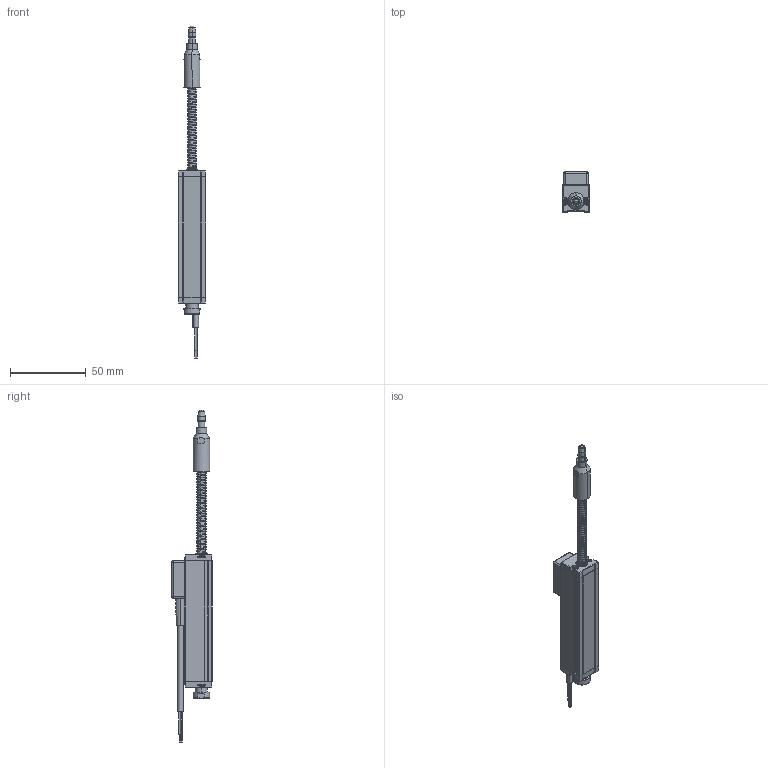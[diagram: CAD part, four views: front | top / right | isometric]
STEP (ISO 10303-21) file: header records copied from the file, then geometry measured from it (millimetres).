
FILE_DESCRIPTION(('FreeCAD Model'),'2;1');
FILE_NAME('O:/12-Produkte/12-10 PM/12-10-40 WEG/01_Produktinfo/SPR18/Zeichnungen & CAD-Daten/SPR18-50-K-.step','2017-03-10T10:58:04',('Author'),(''), 'Open CASCADE STEP processor 6.8','FreeCAD','Unknown');
FILE_SCHEMA(('AUTOMOTIVE_DESIGN_CC2 { 1 2 10303 214 -1 1 5 4 }'));
Length unit declared in the file: millimetre
Products named in the file (2): ASSEMBLY; Part23^SPR18_Stecker
Assembly tree (1 placements, depth 2):
  ASSEMBLY
    Part23^SPR18_Stecker
Bounding box: 18.02 x 26.51 x 219.58 mm (x, y, z)
Volume: 21188.8 mm3; surface area: 23007.3 mm2
Topology: 1 solids, 10 shells, 871 faces, 2282 edges, 1457 vertices
Faces by surface type: plane 425, cylinder 273, cone 100, torus 29, bspline 22, sphere 14, revolution 8
Entity records: 114121 total; most frequent: CARTESIAN_POINT 72404, DIRECTION 6788, ORIENTED_EDGE 4532, PCURVE 4532, DEFINITIONAL_REPRESENTATION 4532, LINE 3172, VECTOR 3172, EDGE_CURVE 2266
